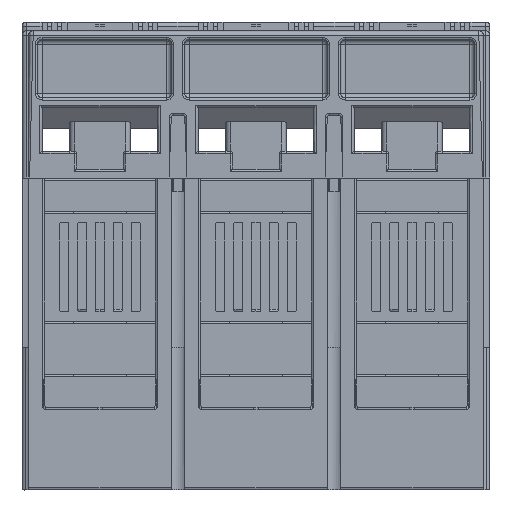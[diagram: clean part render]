
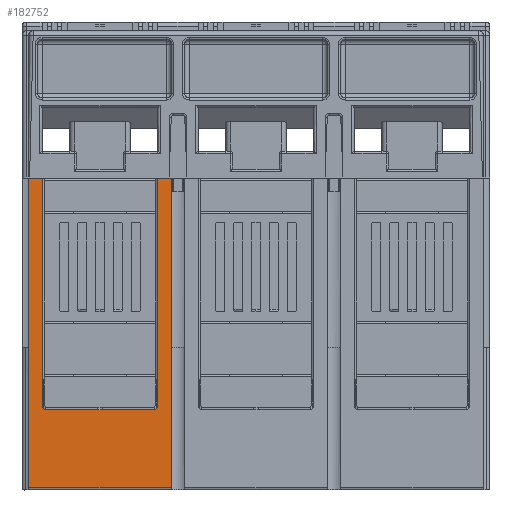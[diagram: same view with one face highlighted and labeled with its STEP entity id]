
A CAD part, front view. The second image highlights one B-rep face of the part: STEP entity #182752.
In plain terms, the highlighted planar face has unit normal (0, -1, 0).
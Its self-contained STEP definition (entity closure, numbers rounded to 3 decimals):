
#267 = CARTESIAN_POINT ( 'NONE',  ( -94.936, -144.658, -16. ) ) ;
#738 = CARTESIAN_POINT ( 'NONE',  ( -123.936, -144.658, -34.5 ) ) ;
#899 = CARTESIAN_POINT ( 'NONE',  ( -95.936, -144.658, -17. ) ) ;
#1256 = CARTESIAN_POINT ( 'NONE',  ( -120.936, -144.658, 35. ) ) ;
#1345 = VERTEX_POINT ( 'NONE', #267 ) ;
#2277 = VERTEX_POINT ( 'NONE', #738 ) ;
#2618 = VERTEX_POINT ( 'NONE', #899 ) ;
#3462 = VERTEX_POINT ( 'NONE', #1256 ) ;
#4566 = PLANE ( 'NONE',  #17153 ) ;
#4601 = FACE_OUTER_BOUND ( 'NONE', #10988, .T. ) ;
#4624 = CARTESIAN_POINT ( 'NONE',  ( -94.936, -144.658, 35. ) ) ;
#4626 = DIRECTION ( 'NONE',  ( 0., 1., 0. ) ) ;
#4628 = DIRECTION ( 'NONE',  ( -1., 0., 0. ) ) ;
#4634 = VECTOR ( 'NONE', #233752, 1000. ) ;
#10988 = EDGE_LOOP ( 'NONE', ( #55491, #55493, #55495, #55497, #55499, #55501, #55503, #55505, #55507, #55509 ) ) ;
#12468 = LINE ( 'NONE', #12471, #22009 ) ;
#12471 = CARTESIAN_POINT ( 'NONE',  ( -125.436, -144.658, 35. ) ) ;
#12473 = DIRECTION ( 'NONE',  ( -1., 0., 0. ) ) ;
#12653 = CARTESIAN_POINT ( 'NONE',  ( -94.936, -144.658, 35. ) ) ;
#12665 = LINE ( 'NONE', #12653, #22074 ) ;
#12684 = DIRECTION ( 'NONE',  ( 0., 0., -1. ) ) ;
#17128 = EDGE_CURVE ( 'NONE', #220256, #3462, #189565, .T. ) ;
#17153 = AXIS2_PLACEMENT_3D ( 'NONE', #4624, #4626, #4628 ) ;
#17652 = EDGE_CURVE ( 'NONE', #2277, #219833, #86484, .T. ) ;
#17704 = EDGE_CURVE ( 'NONE', #220256, #228060, #194852, .T. ) ;
#17712 = EDGE_CURVE ( 'NONE', #220655, #228032, #86794, .T. ) ;
#18263 = EDGE_CURVE ( 'NONE', #1345, #2618, #195964, .T. ) ;
#18400 = EDGE_CURVE ( 'NONE', #219833, #3462, #83891, .T. ) ;
#18531 = EDGE_CURVE ( 'NONE', #228060, #2618, #84760, .T. ) ;
#18838 = EDGE_CURVE ( 'NONE', #228032, #2277, #233697, .T. ) ;
#22009 = VECTOR ( 'NONE', #12473, 1000. ) ;
#22074 = VECTOR ( 'NONE', #12684, 1000. ) ;
#43396 = CARTESIAN_POINT ( 'NONE',  ( -123.936, -144.658, 35. ) ) ;
#43770 = CARTESIAN_POINT ( 'NONE',  ( -120.936, -144.658, -16. ) ) ;
#43854 = CARTESIAN_POINT ( 'NONE',  ( -94.936, -144.658, 35. ) ) ;
#44010 = CARTESIAN_POINT ( 'NONE',  ( -91.936, -144.658, 35. ) ) ;
#45002 = CARTESIAN_POINT ( 'NONE',  ( -91.936, -144.658, -34.5 ) ) ;
#45032 = CARTESIAN_POINT ( 'NONE',  ( -119.936, -144.658, -17. ) ) ;
#55491 = ORIENTED_EDGE ( 'NONE', *, *, #18838, .F. ) ;
#55493 = ORIENTED_EDGE ( 'NONE', *, *, #17712, .F. ) ;
#55495 = ORIENTED_EDGE ( 'NONE', *, *, #84454, .T. ) ;
#55497 = ORIENTED_EDGE ( 'NONE', *, *, #84539, .T. ) ;
#55499 = ORIENTED_EDGE ( 'NONE', *, *, #18263, .T. ) ;
#55501 = ORIENTED_EDGE ( 'NONE', *, *, #18531, .F. ) ;
#55503 = ORIENTED_EDGE ( 'NONE', *, *, #17704, .F. ) ;
#55505 = ORIENTED_EDGE ( 'NONE', *, *, #17128, .T. ) ;
#55507 = ORIENTED_EDGE ( 'NONE', *, *, #18400, .F. ) ;
#55509 = ORIENTED_EDGE ( 'NONE', *, *, #17652, .F. ) ;
#82634 = CARTESIAN_POINT ( 'NONE',  ( -95.936, -144.658, -16. ) ) ;
#82639 = DIRECTION ( 'NONE',  ( 0., 1., 0. ) ) ;
#82645 = DIRECTION ( 'NONE',  ( -1., 0., 0. ) ) ;
#83891 = LINE ( 'NONE', #83936, #194883 ) ;
#83936 = CARTESIAN_POINT ( 'NONE',  ( -94.936, -144.658, 35. ) ) ;
#83944 = DIRECTION ( 'NONE',  ( 1., 0., 0. ) ) ;
#84454 = EDGE_CURVE ( 'NONE', #220655, #220407, #12468, .T. ) ;
#84539 = EDGE_CURVE ( 'NONE', #220407, #1345, #12665, .T. ) ;
#84760 = LINE ( 'NONE', #84763, #196513 ) ;
#84763 = CARTESIAN_POINT ( 'NONE',  ( -94.936, -144.658, -17. ) ) ;
#84766 = DIRECTION ( 'NONE',  ( 1., 0., 0. ) ) ;
#86484 = LINE ( 'NONE', #86489, #195368 ) ;
#86489 = CARTESIAN_POINT ( 'NONE',  ( -123.936, -144.658, 35. ) ) ;
#86491 = DIRECTION ( 'NONE',  ( 0., 0., 1. ) ) ;
#86741 = CARTESIAN_POINT ( 'NONE',  ( -91.936, -144.658, 35. ) ) ;
#86768 = CARTESIAN_POINT ( 'NONE',  ( -119.936, -144.658, -16. ) ) ;
#86771 = DIRECTION ( 'NONE',  ( 0., -1., 0. ) ) ;
#86774 = DIRECTION ( 'NONE',  ( 1., 0., 0. ) ) ;
#86794 = LINE ( 'NONE', #86741, #195356 ) ;
#86807 = DIRECTION ( 'NONE',  ( 0., 0., -1. ) ) ;
#182752 = ADVANCED_FACE ( 'NONE', ( #4601 ), #4566, .F. ) ;
#189555 = CARTESIAN_POINT ( 'NONE',  ( -120.936, -144.658, 35. ) ) ;
#189565 = LINE ( 'NONE', #189555, #195411 ) ;
#189573 = DIRECTION ( 'NONE',  ( 0., 0., 1. ) ) ;
#194852 = CIRCLE ( 'NONE', #195350, 1. ) ;
#194883 = VECTOR ( 'NONE', #83944, 1000. ) ;
#195350 = AXIS2_PLACEMENT_3D ( 'NONE', #86768, #86771, #86774 ) ;
#195356 = VECTOR ( 'NONE', #86807, 1000. ) ;
#195368 = VECTOR ( 'NONE', #86491, 1000. ) ;
#195411 = VECTOR ( 'NONE', #189573, 1000. ) ;
#195724 = AXIS2_PLACEMENT_3D ( 'NONE', #82634, #82639, #82645 ) ;
#195964 = CIRCLE ( 'NONE', #195724, 1. ) ;
#196513 = VECTOR ( 'NONE', #84766, 1000. ) ;
#219833 = VERTEX_POINT ( 'NONE', #43396 ) ;
#220256 = VERTEX_POINT ( 'NONE', #43770 ) ;
#220407 = VERTEX_POINT ( 'NONE', #43854 ) ;
#220655 = VERTEX_POINT ( 'NONE', #44010 ) ;
#228032 = VERTEX_POINT ( 'NONE', #45002 ) ;
#228060 = VERTEX_POINT ( 'NONE', #45032 ) ;
#233697 = LINE ( 'NONE', #233743, #4634 ) ;
#233743 = CARTESIAN_POINT ( 'NONE',  ( -94.936, -144.658, -34.5 ) ) ;
#233752 = DIRECTION ( 'NONE',  ( -1., 0., 0. ) ) ;
